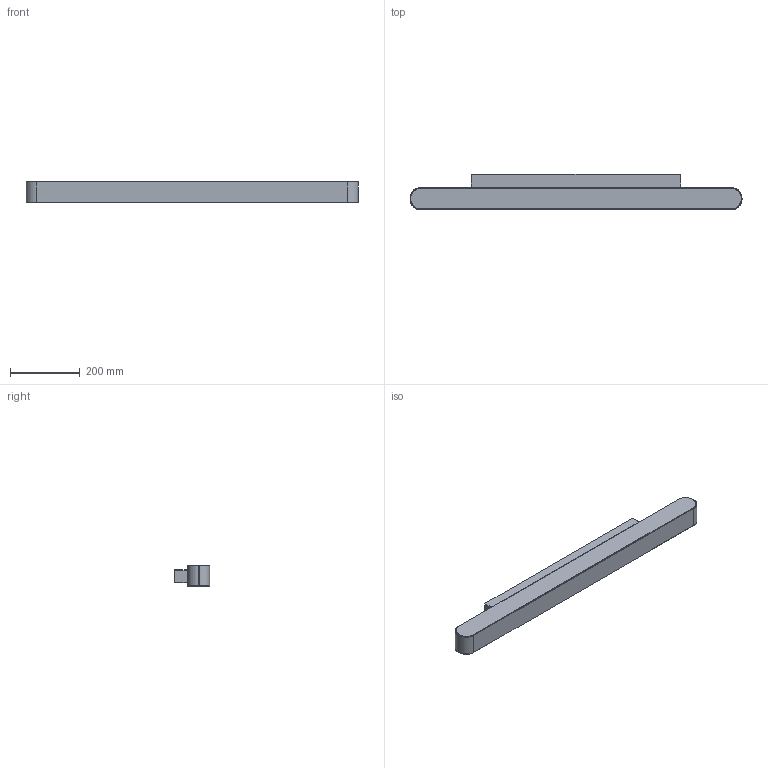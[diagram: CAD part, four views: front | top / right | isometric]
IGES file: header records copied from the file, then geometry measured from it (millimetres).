
Start section: SolidWorks IGES file using NURBS representation for surfaces
Global section: file name: Z:\Modele 3D_WWW\_KOLEKCJE_WWW\SOFT-LED\7548\SOFT-LED-90X6-7534-7548.IGS; native system: SolidWorks 2021; preprocessor: SolidWorks 2021; author: gabriela.tworek; date: 211117.110231; units: millimetre
Bounding box: 950 x 101 x 61.5 mm (x, y, z)
Surface area: 578355.8 mm2 (no closed solid volume)
Topology: 0 solids, 0 shells, 65 faces, 944 edges, 940 vertices
Faces by surface type: bspline 65
